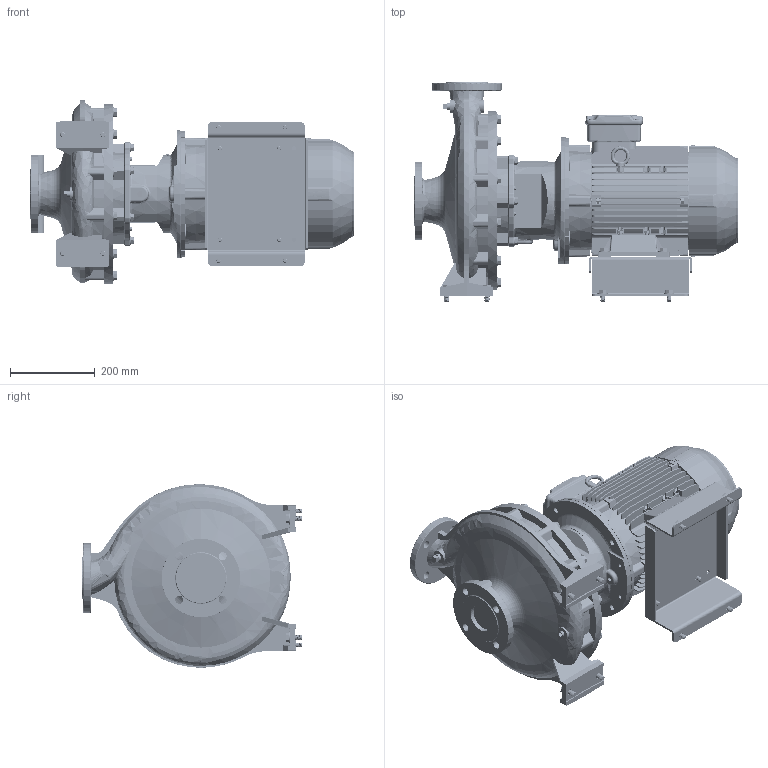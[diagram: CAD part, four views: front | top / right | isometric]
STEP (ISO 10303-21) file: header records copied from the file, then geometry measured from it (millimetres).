
FILE_DESCRIPTION (( 'STEP AP214' ), '1' );
FILE_NAME ('GSD4 50-315_5.5_(132S)_W21.STEP', '2026-06-18T06:30:03', ( '' ), ( '' ), 'SwSTEP 2.0', 'SolidWorks 2024', '' );
FILE_SCHEMA (( 'AUTOMOTIVE_DESIGN' ));
Length unit declared in the file: millimetre
Products named in the file (12): Parametric bolt_SFT-A253B; 50-315-132S_ﾃﾞﾌｫﾙﾄ; Parametric Flat Washer_M12; Parametric Flat Washer_M10; Parametric bolt_SFT-A299B; Parametric bolt and washer_SFT-A299B; Parametric bolt_SFT-A249B; Parametric bolt and washer_SFT-A253B; Parametric bolt and washer_SFT-A249B; 140_178 x 93 BP - CGSDA-5244; 132S ALIE3_W21T_B35; GSD4 50-315_5.5_(132S)_W21
Assembly tree (21 placements, depth 3):
  GSD4 50-315_5.5_(132S)_W21
    50-315-132S_ﾃﾞﾌｫﾙﾄ
    140_178 x 93 BP - CGSDA-5244
    Parametric bolt and washer_SFT-A249B  x4
      Parametric bolt_SFT-A249B
      Parametric Flat Washer_M10
    Parametric bolt and washer_SFT-A299B  x4
      Parametric bolt_SFT-A299B
      Parametric Flat Washer_M12
    Parametric bolt and washer_SFT-A253B  x4
      Parametric bolt_SFT-A253B
      Parametric Flat Washer_M10
    132S ALIE3_W21T_B35
Bounding box: 764.8 x 518 x 432.57 mm (x, y, z)
Volume: 36905627.8 mm3; surface area: 2453017.1 mm2
Topology: 37 solids, 37 shells, 5131 faces, 13248 edges, 8523 vertices
Faces by surface type: plane 3039, cylinder 1194, cone 295, bspline 291, torus 280, sphere 32
Entity records: 177756 total; most frequent: CARTESIAN_POINT 66918, ORIENTED_EDGE 23864, DIRECTION 21489, EDGE_CURVE 11932, VECTOR 7851, LINE 7851, VERTEX_POINT 7683, AXIS2_PLACEMENT_3D 6819
